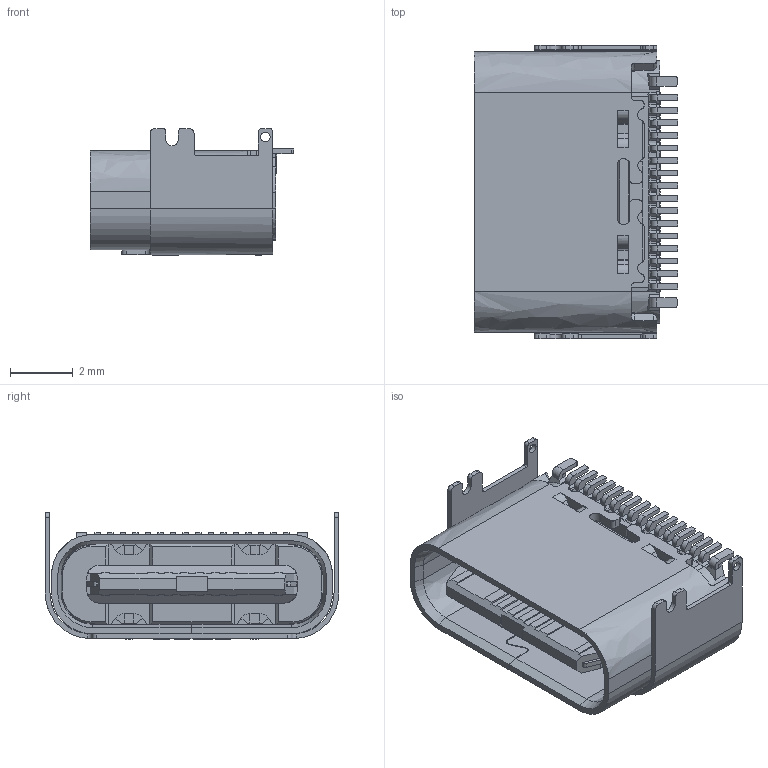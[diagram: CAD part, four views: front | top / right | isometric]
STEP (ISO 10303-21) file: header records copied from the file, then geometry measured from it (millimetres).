
FILE_DESCRIPTION (( 'STEP AP203' ), '1' );
FILE_NAME ('U5087-16PN5.9L(1).STEP', '2026-09-16T03:04:40', ( '' ), ( '' ), 'SwSTEP 2.0', 'SolidWorks 2024', '' );
FILE_SCHEMA (( 'CONFIG_CONTROL_DESIGN' ));
Length unit declared in the file: millimetre
Products named in the file (1): U5087-16PN5.9L(1)
Bounding box: 6.47 x 9.34 x 4.04 mm (x, y, z)
Volume: 93.3 mm3; surface area: 530.4 mm2
Topology: 2 solids, 4 shells, 1082 faces, 2997 edges, 1913 vertices
Faces by surface type: bspline 994, plane 88
Entity records: 36410 total; most frequent: CARTESIAN_POINT 11987, ORIENTED_EDGE 5994, DIRECTION 3432, EDGE_CURVE 2997, LINE 2316, VECTOR 2316, VERTEX_POINT 1913, EDGE_LOOP 1108
